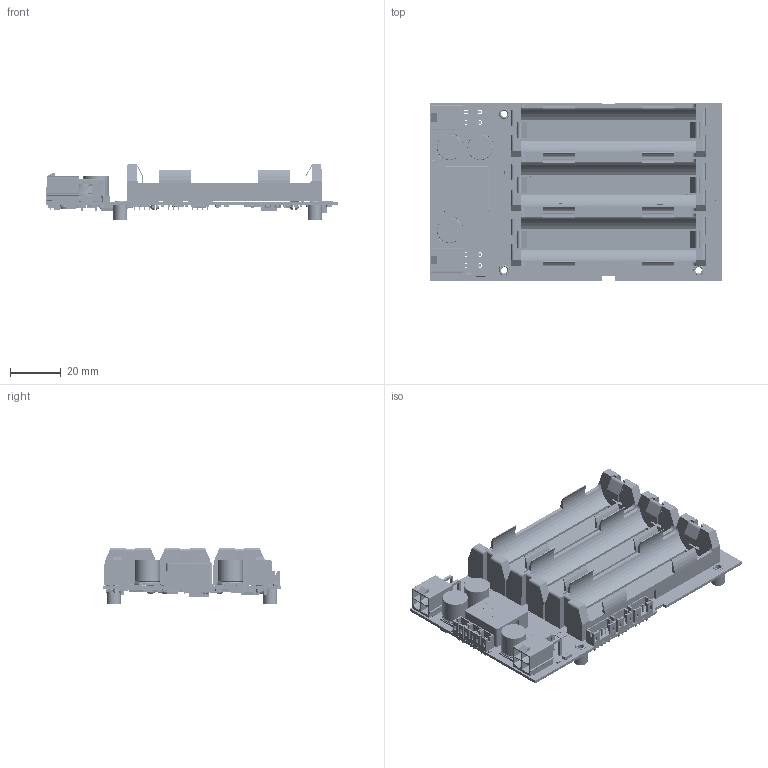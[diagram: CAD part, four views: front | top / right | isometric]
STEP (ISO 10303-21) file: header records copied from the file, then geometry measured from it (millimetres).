
FILE_DESCRIPTION(('Open CASCADE Model'),'2;1');
FILE_NAME('Open CASCADE Shape Model','2013-02-06T11:50:34',('Author'),( 'Open CASCADE'),'Open CASCADE STEP processor 6.2','Open CASCADE 6.2' ,'Unknown');
FILE_SCHEMA(('AUTOMOTIVE_DESIGN { 1 0 10303 214 1 1 1 1 }'));
Length unit declared in the file: millimetre
Products named in the file (311): PCB; Board; U9; IC_TSSOP-8_3.1x4.4mm; User_Library-TSSOP-8_3.1x4.4_pin_TSSOP_tssop_1; User_Library-TSSOP-8_3.1x4.4_body_TSSOP_TSSOP_3.1x4.5_1; C58; Capacitor_0603_(1608M); R48; Resistor_0603_(1608M); C62; C31; C57; R37; U3; 448020448; Extruded; R49; C32; R13; R14; C64; C61; C63; C28; D12; Transistor_SOT23_01; RT3; Resistor_0402_(1005M); R88; R66; R86; RT4; R79; R75; R67; R80; R68; R74; R69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
Assembly tree (518 placements, depth 6):
  PCB
    Board
    U9
      IC_TSSOP-8_3.1x4.4mm
        User_Library-TSSOP-8_3.1x4.4_pin_TSSOP_tssop_1  x8
        User_Library-TSSOP-8_3.1x4.4_body_TSSOP_TSSOP_3.1x4.5_1
    C58
      Capacitor_0603_(1608M)
    R48
      Resistor_0603_(1608M)
    C62
      Capacitor_0603_(1608M)
    C31
      Capacitor_0603_(1608M)
    C57
      Capacitor_0603_(1608M)
    R37
      Resistor_0603_(1608M)
    U3
      448020448
        Extruded
    R49
      Resistor_0603_(1608M)
    C32
      Capacitor_0603_(1608M)
    R13
      Resistor_0603_(1608M)
    R14
      Resistor_0603_(1608M)
    C64
      Capacitor_0603_(1608M)
    C61
      Capacitor_0603_(1608M)
    C63
      Capacitor_0603_(1608M)
    C28
      Capacitor_0603_(1608M)
    D12
      Transistor_SOT23_01
    RT3
      Resistor_0402_(1005M)
    R88
      Resistor_0603_(1608M)
    R66
      Resistor_0603_(1608M)
    R86
      Resistor_0603_(1608M)
    RT4
      Resistor_0402_(1005M)
    R79
      Resistor_0603_(1608M)
    R75
      Resistor_0603_(1608M)
    R67
      Resistor_0603_(1608M)
    R80
      Resistor_0603_(1608M)
    R68
      Resistor_0603_(1608M)
    R74
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Bounding box: 115.2 x 69.86 x 22.24 mm (x, y, z)
Volume: 35170.6 mm3; surface area: 54857.5 mm2
Topology: 630 solids, 630 shells, 27079 faces, 69193 edges, 43485 vertices
Faces by surface type: bspline 12192, plane 10638, cylinder 4044, extrusion 78, sphere 39, cone 36, torus 28, revolution 24
Full cylindrical faces by diameter (mm): 0.7 x18, 1.8 x8, 2.39 x3, 3.175 x2, 3.45 x6, 4.32 x4, 6.5 x1
Entity records: 322691 total; most frequent: CARTESIAN_POINT 112537, DIRECTION 29271, ORIENTED_EDGE 19686, PCURVE 19686, DEFINITIONAL_REPRESENTATION 19686, VECTOR 19647, LINE 19569, EDGE_CURVE 9843
